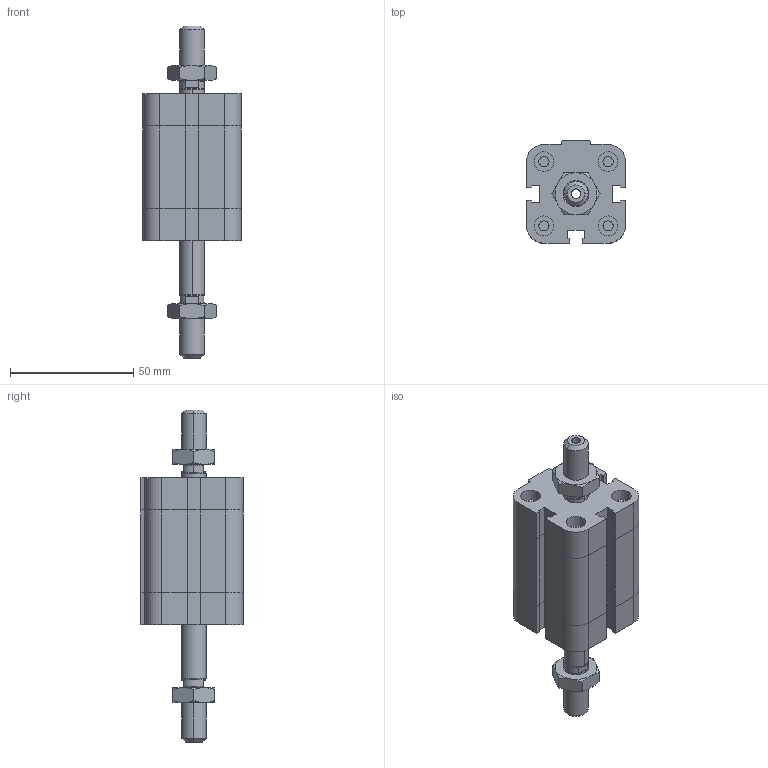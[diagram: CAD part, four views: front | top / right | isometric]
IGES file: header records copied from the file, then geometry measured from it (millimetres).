
Global section: file name: No Iges File Name specified; native system: Autodesk Inventor 2009; preprocessor: AutoDesk Inventor Iges Exporter R2009; author: maffial1; date: 20090420.142652; units: millimetre
Bounding box: 40 x 41.5 x 134.5 mm (x, y, z)
Volume: 90503.9 mm3; surface area: 26403.7 mm2
Topology: 4 solids, 4 shells, 262 faces, 580 edges, 346 vertices
Faces by surface type: plane 129, bspline 53, cone 38, cylinder 22, revolution 20
